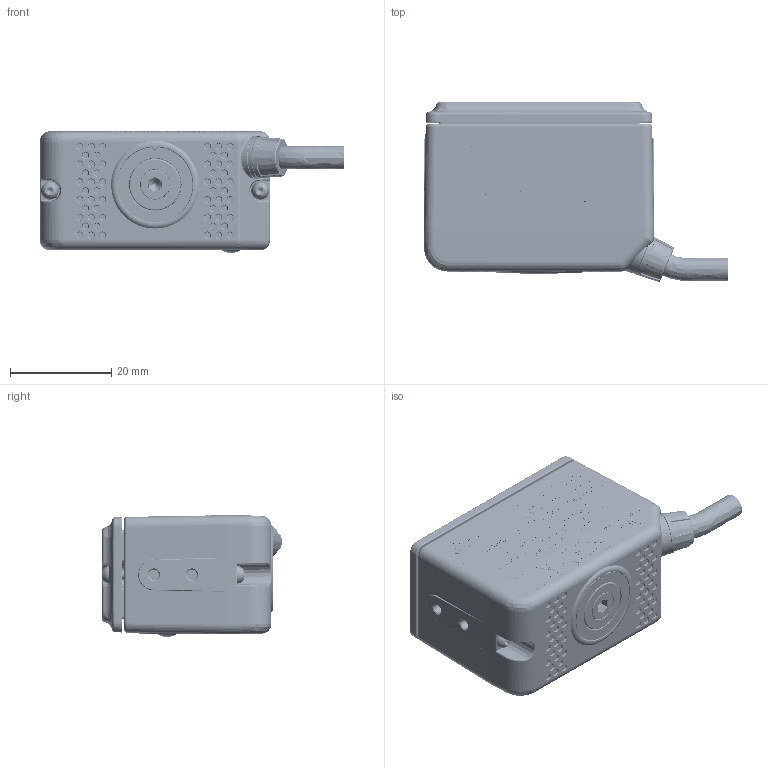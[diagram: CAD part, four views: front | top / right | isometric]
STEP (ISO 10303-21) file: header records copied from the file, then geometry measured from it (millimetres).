
FILE_DESCRIPTION(/* description */ (''),/* implementation_level */ '2;1');
FILE_NAME(/* name */ 'AS001608_01_STP_DSD-0741 (MATRIX 120 USB ESD).stp',/* time_stamp */ '2016-06-24T11:19:16+02:00',/* author */ (''),/* organization */ (''),/* preprocessor_version */ 'ST-DEVELOPER v16',/* originating_system */ 'SIEMENS PLM Software NX 10.0',/* authorisation */ '');
FILE_SCHEMA (('AP203_CONFIGURATION_CONTROLLED_3D_DESIGN_OF_MECHANICAL_PARTS_AND_ASSEMBLIES_MIM_LF { 1 0 10303 403 2 1 2}'));
Products named in the file (1): fgua20A46E2A9qd4
Bounding box: 60.02 x 35.43 x 24.01 mm (x, y, z)
Volume: 12239.5 mm3; surface area: 19226.6 mm2
Topology: 261 solids, 261 shells, 9454 faces, 21797 edges, 12874 vertices
Faces by surface type: plane 3165, cylinder 2641, bspline 1534, extrusion 982, sphere 762, torus 197, cone 173
Full cylindrical faces by diameter (mm): 1.1 x2, 1.6 x4, 1.95 x6, 2.05 x4, 3 x1, 3.2 x1, 3.5 x1, 4.5 x2, 4.6 x3, 4.65 x1, 5.65 x2, 5.9 x2, 5.95 x1, 6 x1, 6.2 x1, 6.3 x1, 7 x1, 7.1 x1, 8.25 x1, 10.5 x2
Entity records: 309623 total; most frequent: CARTESIAN_POINT 111338, ORIENTED_EDGE 42712, DIRECTION 37624, EDGE_CURVE 21356, AXIS2_PLACEMENT_3D 14231, VERTEX_POINT 12787, EDGE_LOOP 10001, ADVANCED_FACE 9453
